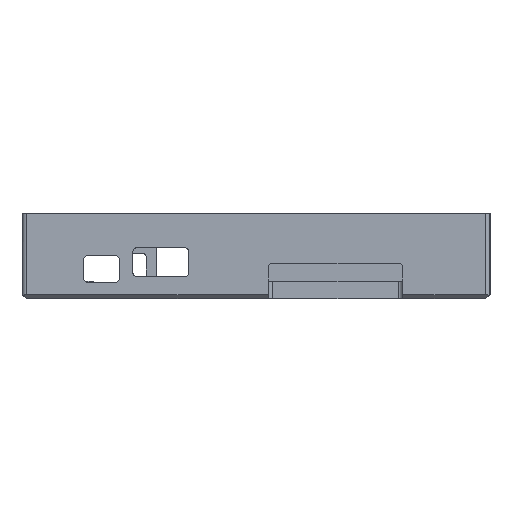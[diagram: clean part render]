
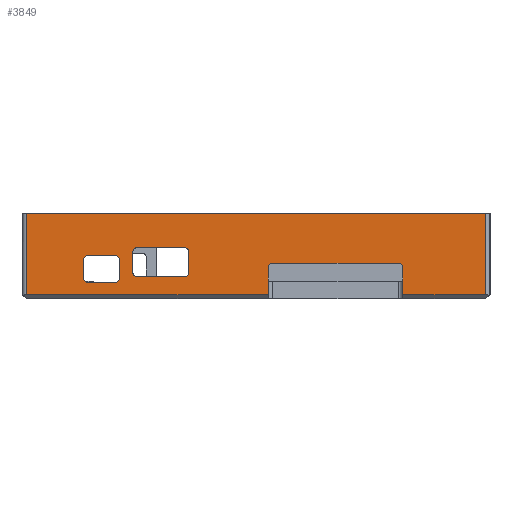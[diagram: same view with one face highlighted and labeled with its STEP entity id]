
A CAD part, left-side view. The second image highlights one B-rep face of the part: STEP entity #3849.
In plain terms, the highlighted planar face has unit normal (-1, 0, 0).
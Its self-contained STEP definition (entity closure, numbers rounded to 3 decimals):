
#1398 = VERTEX_POINT('',#1399);
#1399 = CARTESIAN_POINT('',(-84.75,51.25,19.2));
#1406 = EDGE_CURVE('',#1398,#1407,#1409,.T.);
#1407 = VERTEX_POINT('',#1408);
#1408 = CARTESIAN_POINT('',(-84.75,-51.25,19.2));
#1409 = LINE('',#1410,#1411);
#1410 = CARTESIAN_POINT('',(-84.75,52.25,19.2));
#1411 = VECTOR('',#1412,1.);
#1412 = DIRECTION('',(0.,-1.,0.));
#3050 = VERTEX_POINT('',#3051);
#3051 = CARTESIAN_POINT('',(-84.75,37.5,3.7));
#3057 = EDGE_CURVE('',#3050,#3058,#3060,.T.);
#3058 = VERTEX_POINT('',#3059);
#3059 = CARTESIAN_POINT('',(-84.75,31.5,3.7));
#3060 = LINE('',#3061,#3062);
#3061 = CARTESIAN_POINT('',(-84.75,38.5,3.7));
#3062 = VECTOR('',#3063,1.);
#3063 = DIRECTION('',(0.,-1.,0.));
#3146 = EDGE_CURVE('',#3050,#3147,#3149,.T.);
#3147 = VERTEX_POINT('',#3148);
#3148 = CARTESIAN_POINT('',(-84.75,38.5,4.7));
#3149 = CIRCLE('',#3150,1.);
#3150 = AXIS2_PLACEMENT_3D('',#3151,#3152,#3153);
#3151 = CARTESIAN_POINT('',(-84.75,37.5,4.7));
#3152 = DIRECTION('',(1.,0.,-0.));
#3153 = DIRECTION('',(0.,0.,1.));
#3171 = EDGE_CURVE('',#3172,#3147,#3174,.T.);
#3172 = VERTEX_POINT('',#3173);
#3173 = CARTESIAN_POINT('',(-84.75,38.5,8.7));
#3174 = LINE('',#3175,#3176);
#3175 = CARTESIAN_POINT('',(-84.75,38.5,9.7));
#3176 = VECTOR('',#3177,1.);
#3177 = DIRECTION('',(0.,0.,-1.));
#3195 = EDGE_CURVE('',#3196,#3172,#3198,.T.);
#3196 = VERTEX_POINT('',#3197);
#3197 = CARTESIAN_POINT('',(-84.75,37.5,9.7));
#3198 = CIRCLE('',#3199,1.);
#3199 = AXIS2_PLACEMENT_3D('',#3200,#3201,#3202);
#3200 = CARTESIAN_POINT('',(-84.75,37.5,8.7));
#3201 = DIRECTION('',(-1.,0.,0.));
#3202 = DIRECTION('',(0.,0.,1.));
#3280 = EDGE_CURVE('',#3281,#3196,#3283,.T.);
#3281 = VERTEX_POINT('',#3282);
#3282 = CARTESIAN_POINT('',(-84.75,31.5,9.7));
#3283 = LINE('',#3284,#3285);
#3284 = CARTESIAN_POINT('',(-84.75,30.5,9.7));
#3285 = VECTOR('',#3286,1.);
#3286 = DIRECTION('',(0.,1.,0.));
#3304 = EDGE_CURVE('',#3305,#3281,#3307,.T.);
#3305 = VERTEX_POINT('',#3306);
#3306 = CARTESIAN_POINT('',(-84.75,30.5,8.7));
#3307 = CIRCLE('',#3308,1.);
#3308 = AXIS2_PLACEMENT_3D('',#3309,#3310,#3311);
#3309 = CARTESIAN_POINT('',(-84.75,31.5,8.7));
#3310 = DIRECTION('',(-1.,0.,0.));
#3311 = DIRECTION('',(0.,0.,1.));
#3329 = EDGE_CURVE('',#3330,#3305,#3332,.T.);
#3330 = VERTEX_POINT('',#3331);
#3331 = CARTESIAN_POINT('',(-84.75,30.5,4.7));
#3332 = LINE('',#3333,#3334);
#3333 = CARTESIAN_POINT('',(-84.75,30.5,3.7));
#3334 = VECTOR('',#3335,1.);
#3335 = DIRECTION('',(0.,0.,1.));
#3353 = EDGE_CURVE('',#3330,#3058,#3354,.T.);
#3354 = CIRCLE('',#3355,1.);
#3355 = AXIS2_PLACEMENT_3D('',#3356,#3357,#3358);
#3356 = CARTESIAN_POINT('',(-84.75,31.5,4.7));
#3357 = DIRECTION('',(1.,0.,-0.));
#3358 = DIRECTION('',(0.,0.,1.));
#3428 = VERTEX_POINT('',#3429);
#3429 = CARTESIAN_POINT('',(-84.75,-32.75,1.));
#3435 = EDGE_CURVE('',#3436,#3428,#3438,.T.);
#3436 = VERTEX_POINT('',#3437);
#3437 = CARTESIAN_POINT('',(-84.75,-32.75,7.));
#3438 = LINE('',#3439,#3440);
#3439 = CARTESIAN_POINT('',(-84.75,-32.75,8.));
#3440 = VECTOR('',#3441,1.);
#3441 = DIRECTION('',(-0.,-0.,-1.));
#3465 = EDGE_CURVE('',#3466,#3436,#3468,.T.);
#3466 = VERTEX_POINT('',#3467);
#3467 = CARTESIAN_POINT('',(-84.75,-31.75,8.));
#3468 = CIRCLE('',#3469,1.);
#3469 = AXIS2_PLACEMENT_3D('',#3470,#3471,#3472);
#3470 = CARTESIAN_POINT('',(-84.75,-31.75,7.));
#3471 = DIRECTION('',(1.,0.,-0.));
#3472 = DIRECTION('',(0.,0.,1.));
#3507 = EDGE_CURVE('',#3508,#3466,#3510,.T.);
#3508 = VERTEX_POINT('',#3509);
#3509 = CARTESIAN_POINT('',(-84.75,-3.75,8.));
#3510 = LINE('',#3511,#3512);
#3511 = CARTESIAN_POINT('',(-84.75,-2.75,8.));
#3512 = VECTOR('',#3513,1.);
#3513 = DIRECTION('',(0.,-1.,0.));
#3533 = EDGE_CURVE('',#3534,#3508,#3536,.T.);
#3534 = VERTEX_POINT('',#3535);
#3535 = CARTESIAN_POINT('',(-84.75,-2.75,7.));
#3536 = CIRCLE('',#3537,1.);
#3537 = AXIS2_PLACEMENT_3D('',#3538,#3539,#3540);
#3538 = CARTESIAN_POINT('',(-84.75,-3.75,7.));
#3539 = DIRECTION('',(1.,-0.,0.));
#3540 = DIRECTION('',(0.,0.,-1.));
#3573 = EDGE_CURVE('',#3534,#3574,#3576,.T.);
#3574 = VERTEX_POINT('',#3575);
#3575 = CARTESIAN_POINT('',(-84.75,-2.75,1.));
#3576 = LINE('',#3577,#3578);
#3577 = CARTESIAN_POINT('',(-84.75,-2.75,8.));
#3578 = VECTOR('',#3579,1.);
#3579 = DIRECTION('',(-0.,-0.,-1.));
#3605 = EDGE_CURVE('',#3606,#3608,#3610,.T.);
#3606 = VERTEX_POINT('',#3607);
#3607 = CARTESIAN_POINT('',(-84.75,15.,5.95));
#3608 = VERTEX_POINT('',#3609);
#3609 = CARTESIAN_POINT('',(-84.75,15.,10.45));
#3610 = LINE('',#3611,#3612);
#3611 = CARTESIAN_POINT('',(-84.75,15.,4.95));
#3612 = VECTOR('',#3613,1.);
#3613 = DIRECTION('',(0.,0.,1.));
#3636 = EDGE_CURVE('',#3606,#3637,#3639,.T.);
#3637 = VERTEX_POINT('',#3638);
#3638 = CARTESIAN_POINT('',(-84.75,16.,4.95));
#3639 = CIRCLE('',#3640,1.);
#3640 = AXIS2_PLACEMENT_3D('',#3641,#3642,#3643);
#3641 = CARTESIAN_POINT('',(-84.75,16.,5.95));
#3642 = DIRECTION('',(1.,0.,-0.));
#3643 = DIRECTION('',(0.,0.,1.));
#3661 = EDGE_CURVE('',#3608,#3662,#3664,.T.);
#3662 = VERTEX_POINT('',#3663);
#3663 = CARTESIAN_POINT('',(-84.75,16.,11.45));
#3664 = CIRCLE('',#3665,1.);
#3665 = AXIS2_PLACEMENT_3D('',#3666,#3667,#3668);
#3666 = CARTESIAN_POINT('',(-84.75,16.,10.45));
#3667 = DIRECTION('',(-1.,0.,0.));
#3668 = DIRECTION('',(0.,0.,1.));
#3686 = EDGE_CURVE('',#3687,#3637,#3689,.T.);
#3687 = VERTEX_POINT('',#3688);
#3688 = CARTESIAN_POINT('',(-84.75,26.5,4.95));
#3689 = LINE('',#3690,#3691);
#3690 = CARTESIAN_POINT('',(-84.75,27.5,4.95));
#3691 = VECTOR('',#3692,1.);
#3692 = DIRECTION('',(0.,-1.,0.));
#3710 = EDGE_CURVE('',#3662,#3711,#3713,.T.);
#3711 = VERTEX_POINT('',#3712);
#3712 = CARTESIAN_POINT('',(-84.75,26.5,11.45));
#3713 = LINE('',#3714,#3715);
#3714 = CARTESIAN_POINT('',(-84.75,15.,11.45));
#3715 = VECTOR('',#3716,1.);
#3716 = DIRECTION('',(0.,1.,0.));
#3734 = EDGE_CURVE('',#3687,#3735,#3737,.T.);
#3735 = VERTEX_POINT('',#3736);
#3736 = CARTESIAN_POINT('',(-84.75,27.5,5.95));
#3737 = CIRCLE('',#3738,1.);
#3738 = AXIS2_PLACEMENT_3D('',#3739,#3740,#3741);
#3739 = CARTESIAN_POINT('',(-84.75,26.5,5.95));
#3740 = DIRECTION('',(1.,0.,-0.));
#3741 = DIRECTION('',(0.,0.,1.));
#3759 = EDGE_CURVE('',#3711,#3760,#3762,.T.);
#3760 = VERTEX_POINT('',#3761);
#3761 = CARTESIAN_POINT('',(-84.75,27.5,10.45));
#3762 = CIRCLE('',#3763,1.);
#3763 = AXIS2_PLACEMENT_3D('',#3764,#3765,#3766);
#3764 = CARTESIAN_POINT('',(-84.75,26.5,10.45));
#3765 = DIRECTION('',(-1.,0.,0.));
#3766 = DIRECTION('',(0.,0.,1.));
#3784 = EDGE_CURVE('',#3760,#3735,#3785,.T.);
#3785 = LINE('',#3786,#3787);
#3786 = CARTESIAN_POINT('',(-84.75,27.5,11.45));
#3787 = VECTOR('',#3788,1.);
#3788 = DIRECTION('',(0.,0.,-1.));
#3803 = VERTEX_POINT('',#3804);
#3804 = CARTESIAN_POINT('',(-84.75,-51.25,1.));
#3811 = EDGE_CURVE('',#3803,#1407,#3812,.T.);
#3812 = LINE('',#3813,#3814);
#3813 = CARTESIAN_POINT('',(-84.75,-51.25,1.));
#3814 = VECTOR('',#3815,1.);
#3815 = DIRECTION('',(0.,0.,1.));
#3849 = ADVANCED_FACE('',(#3850,#3879,#3889),#3899,.F.);
#3850 = FACE_BOUND('',#3851,.F.);
#3851 = EDGE_LOOP('',(#3852,#3853,#3861,#3867,#3868,#3869,#3875,#3876,
    #3877,#3878));
#3852 = ORIENTED_EDGE('',*,*,#3573,.T.);
#3853 = ORIENTED_EDGE('',*,*,#3854,.F.);
#3854 = EDGE_CURVE('',#3855,#3574,#3857,.T.);
#3855 = VERTEX_POINT('',#3856);
#3856 = CARTESIAN_POINT('',(-84.75,51.25,1.));
#3857 = LINE('',#3858,#3859);
#3858 = CARTESIAN_POINT('',(-84.75,52.25,1.));
#3859 = VECTOR('',#3860,1.);
#3860 = DIRECTION('',(0.,-1.,0.));
#3861 = ORIENTED_EDGE('',*,*,#3862,.T.);
#3862 = EDGE_CURVE('',#3855,#1398,#3863,.T.);
#3863 = LINE('',#3864,#3865);
#3864 = CARTESIAN_POINT('',(-84.75,51.25,1.));
#3865 = VECTOR('',#3866,1.);
#3866 = DIRECTION('',(0.,0.,1.));
#3867 = ORIENTED_EDGE('',*,*,#1406,.T.);
#3868 = ORIENTED_EDGE('',*,*,#3811,.F.);
#3869 = ORIENTED_EDGE('',*,*,#3870,.F.);
#3870 = EDGE_CURVE('',#3428,#3803,#3871,.T.);
#3871 = LINE('',#3872,#3873);
#3872 = CARTESIAN_POINT('',(-84.75,-32.75,1.));
#3873 = VECTOR('',#3874,1.);
#3874 = DIRECTION('',(0.,-1.,0.));
#3875 = ORIENTED_EDGE('',*,*,#3435,.F.);
#3876 = ORIENTED_EDGE('',*,*,#3465,.F.);
#3877 = ORIENTED_EDGE('',*,*,#3507,.F.);
#3878 = ORIENTED_EDGE('',*,*,#3533,.F.);
#3879 = FACE_BOUND('',#3880,.F.);
#3880 = EDGE_LOOP('',(#3881,#3882,#3883,#3884,#3885,#3886,#3887,#3888));
#3881 = ORIENTED_EDGE('',*,*,#3605,.T.);
#3882 = ORIENTED_EDGE('',*,*,#3661,.T.);
#3883 = ORIENTED_EDGE('',*,*,#3710,.T.);
#3884 = ORIENTED_EDGE('',*,*,#3759,.T.);
#3885 = ORIENTED_EDGE('',*,*,#3784,.T.);
#3886 = ORIENTED_EDGE('',*,*,#3734,.F.);
#3887 = ORIENTED_EDGE('',*,*,#3686,.T.);
#3888 = ORIENTED_EDGE('',*,*,#3636,.F.);
#3889 = FACE_BOUND('',#3890,.F.);
#3890 = EDGE_LOOP('',(#3891,#3892,#3893,#3894,#3895,#3896,#3897,#3898));
#3891 = ORIENTED_EDGE('',*,*,#3329,.T.);
#3892 = ORIENTED_EDGE('',*,*,#3304,.T.);
#3893 = ORIENTED_EDGE('',*,*,#3280,.T.);
#3894 = ORIENTED_EDGE('',*,*,#3195,.T.);
#3895 = ORIENTED_EDGE('',*,*,#3171,.T.);
#3896 = ORIENTED_EDGE('',*,*,#3146,.F.);
#3897 = ORIENTED_EDGE('',*,*,#3057,.T.);
#3898 = ORIENTED_EDGE('',*,*,#3353,.F.);
#3899 = PLANE('',#3900);
#3900 = AXIS2_PLACEMENT_3D('',#3901,#3902,#3903);
#3901 = CARTESIAN_POINT('',(-84.75,52.25,0.));
#3902 = DIRECTION('',(1.,0.,0.));
#3903 = DIRECTION('',(0.,-1.,0.));
